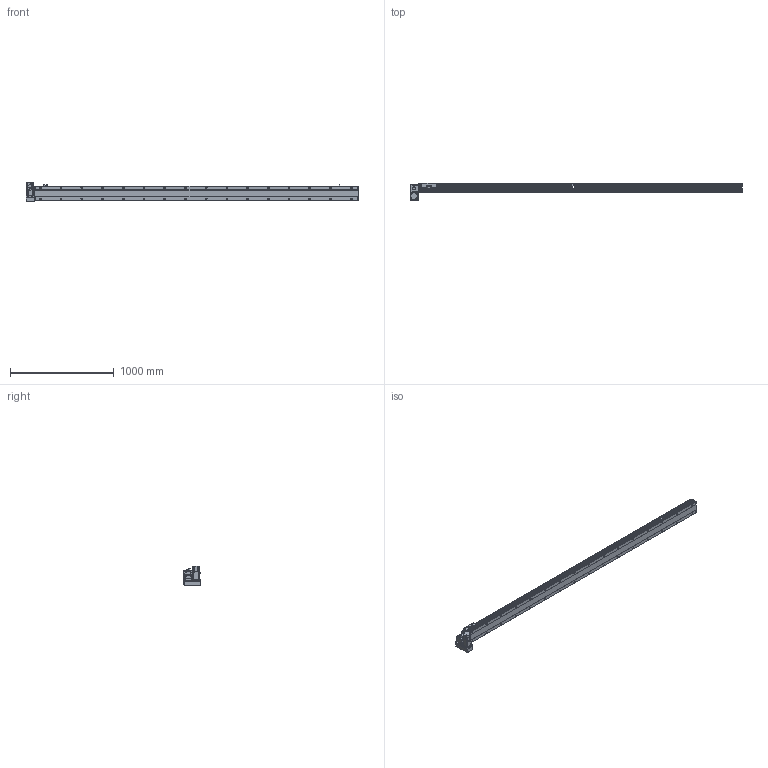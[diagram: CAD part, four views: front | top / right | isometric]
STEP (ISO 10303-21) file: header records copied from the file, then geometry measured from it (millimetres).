
FILE_DESCRIPTION(/* description */ ('STEP AP214'),/* implementation_level */ '2;1');
FILE_NAME(/* name */ 'PBS140S-P40-S2850-LD-T40-C1-N(0)',/* time_stamp */ '2022-06-09T02:29:40+02:00',/* author */ ('License CC BY-ND 4.0'),/* organization */ ('CADENAS'),/* preprocessor_version */ 'ST-DEVELOPER v18.102',/* originating_system */ 'PARTsolutions',/* authorisation */ ' ');
FILE_SCHEMA (('AUTOMOTIVE_DESIGN {1 0 10303 214 3 1 1}'));
Length unit declared in the file: millimetre
Products named in the file (7): PBS140S-P40-S2850-LD-T40-C1-N(0); PBS140S_sensor; PBS140S_plant; PBS140S_sliser; T40-p1; PBS140ST-LD_motors; PBS140S-S2850()_body
Assembly tree (8 placements, depth 2):
  PBS140S-P40-S2850-LD-T40-C1-N(0)
    PBS140S_sensor  x3
    PBS140S_plant
    PBS140S_sliser
    T40-p1
    PBS140ST-LD_motors
    PBS140S-S2850()_body
Bounding box: 3204 x 172.5 x 189.7 mm (x, y, z)
Volume: 15465187.7 mm3; surface area: 2597096.8 mm2
Topology: 8 solids, 8 shells, 1227 faces, 3231 edges, 2113 vertices
Faces by surface type: plane 750, cylinder 409, cone 58, sphere 8, torus 2
Full cylindrical faces by diameter (mm): 3.242 x4, 4 x2, 4.134 x4, 4.4 x8, 4.5 x2, 4.8 x4, 4.917 x40, 5.5 x7, 6 x2, 7 x34, 7.5 x8, 8 x12, 8.5 x4, 10.5 x32, 14 x1, 30 x2, 50 x2
Entity records: 35160 total; most frequent: CARTESIAN_POINT 6712, DIRECTION 5908, ORIENTED_EDGE 5542, EDGE_CURVE 2771, AXIS2_PLACEMENT_3D 2099, VERTEX_POINT 1945, LINE 1710, VECTOR 1710
